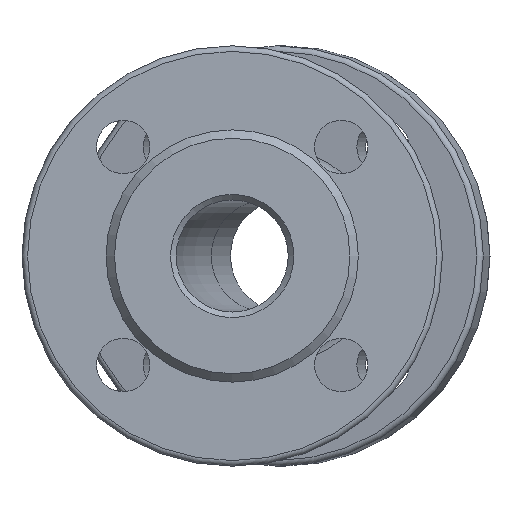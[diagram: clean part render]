
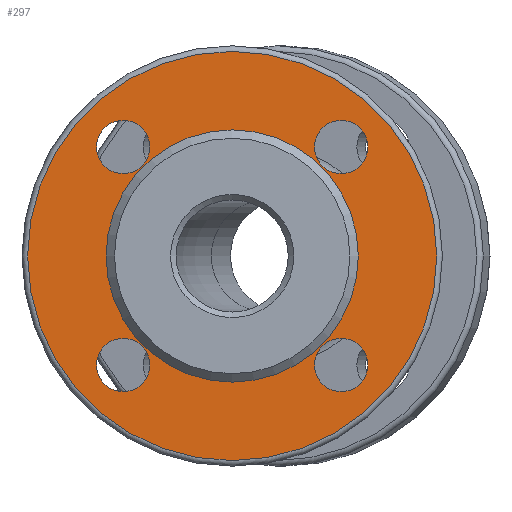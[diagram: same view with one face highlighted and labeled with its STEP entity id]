
A CAD part, left-side view. The second image highlights one B-rep face of the part: STEP entity #297.
In plain terms, the highlighted planar face has unit normal (-1, 0, 0).
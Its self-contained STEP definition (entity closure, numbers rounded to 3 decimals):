
#1 = CARTESIAN_POINT ( 'NONE',  ( 3., -38.891, 29.391 ) ) ;
#38 = ORIENTED_EDGE ( 'NONE', *, *, #1123, .T. ) ;
#60 = CARTESIAN_POINT ( 'NONE',  ( 3., 0., -73. ) ) ;
#122 = EDGE_LOOP ( 'NONE', ( #1935 ) ) ;
#223 = CIRCLE ( 'NONE', #2015, 9.5 ) ;
#279 = VERTEX_POINT ( 'NONE', #1 ) ;
#297 = ADVANCED_FACE ( 'NONE', ( #1685, #2462, #1139, #523, #3060, #2498 ), #1116, .F. ) ;
#433 = DIRECTION ( 'NONE',  ( 1., 0., 0. ) ) ;
#451 = DIRECTION ( 'NONE',  ( 0., 0., -1. ) ) ;
#523 = FACE_BOUND ( 'NONE', #976, .T. ) ;
#577 = DIRECTION ( 'NONE',  ( 1., 0., 0. ) ) ;
#585 = DIRECTION ( 'NONE',  ( 0., 0., -1. ) ) ;
#652 = DIRECTION ( 'NONE',  ( -1., 0., 0. ) ) ;
#668 = AXIS2_PLACEMENT_3D ( 'NONE', #1693, #1978, #2504 ) ;
#728 = CIRCLE ( 'NONE', #3216, 9.5 ) ;
#729 = EDGE_CURVE ( 'NONE', #2540, #2540, #2579, .T. ) ;
#763 = DIRECTION ( 'NONE',  ( 0., 0., -1. ) ) ;
#917 = CIRCLE ( 'NONE', #1665, 9.5 ) ;
#976 = EDGE_LOOP ( 'NONE', ( #2707 ) ) ;
#1116 = PLANE ( 'NONE',  #3097 ) ;
#1123 = EDGE_CURVE ( 'NONE', #3081, #3081, #728, .T. ) ;
#1139 = FACE_BOUND ( 'NONE', #2623, .T. ) ;
#1218 = EDGE_LOOP ( 'NONE', ( #3138 ) ) ;
#1339 = CARTESIAN_POINT ( 'NONE',  ( 3., -38.891, 38.891 ) ) ;
#1393 = VERTEX_POINT ( 'NONE', #2500 ) ;
#1412 = VERTEX_POINT ( 'NONE', #2520 ) ;
#1456 = EDGE_LOOP ( 'NONE', ( #3366 ) ) ;
#1579 = EDGE_CURVE ( 'NONE', #3355, #3355, #3330, .T. ) ;
#1620 = ORIENTED_EDGE ( 'NONE', *, *, #2725, .T. ) ;
#1634 = DIRECTION ( 'NONE',  ( 1., 0., 0. ) ) ;
#1650 = DIRECTION ( 'NONE',  ( 0., 0., -1. ) ) ;
#1665 = AXIS2_PLACEMENT_3D ( 'NONE', #3304, #1981, #585 ) ;
#1685 = FACE_OUTER_BOUND ( 'NONE', #122, .T. ) ;
#1693 = CARTESIAN_POINT ( 'NONE',  ( 3., 0., 0. ) ) ;
#1842 = AXIS2_PLACEMENT_3D ( 'NONE', #2350, #433, #451 ) ;
#1849 = DIRECTION ( 'NONE',  ( 0., 0., -1. ) ) ;
#1935 = ORIENTED_EDGE ( 'NONE', *, *, #1579, .T. ) ;
#1978 = DIRECTION ( 'NONE',  ( -1., 0., 0. ) ) ;
#1981 = DIRECTION ( 'NONE',  ( 1., 0., 0. ) ) ;
#2015 = AXIS2_PLACEMENT_3D ( 'NONE', #1339, #2418, #763 ) ;
#2038 = EDGE_LOOP ( 'NONE', ( #1620 ) ) ;
#2206 = CARTESIAN_POINT ( 'NONE',  ( 3., 0., 45. ) ) ;
#2350 = CARTESIAN_POINT ( 'NONE',  ( 3., 38.891, 38.891 ) ) ;
#2418 = DIRECTION ( 'NONE',  ( 1., 0., 0. ) ) ;
#2462 = FACE_BOUND ( 'NONE', #1218, .T. ) ;
#2472 = CIRCLE ( 'NONE', #1842, 9.5 ) ;
#2498 = FACE_BOUND ( 'NONE', #1456, .T. ) ;
#2500 = CARTESIAN_POINT ( 'NONE',  ( 3., 38.891, 29.391 ) ) ;
#2504 = DIRECTION ( 'NONE',  ( 0., 0., 1. ) ) ;
#2520 = CARTESIAN_POINT ( 'NONE',  ( 3., 38.891, -48.391 ) ) ;
#2540 = VERTEX_POINT ( 'NONE', #2206 ) ;
#2572 = EDGE_CURVE ( 'NONE', #279, #279, #223, .T. ) ;
#2579 = CIRCLE ( 'NONE', #668, 45. ) ;
#2623 = EDGE_LOOP ( 'NONE', ( #38 ) ) ;
#2707 = ORIENTED_EDGE ( 'NONE', *, *, #2572, .T. ) ;
#2720 = CARTESIAN_POINT ( 'NONE',  ( 3., -38.891, -38.891 ) ) ;
#2725 = EDGE_CURVE ( 'NONE', #1393, #1393, #2472, .T. ) ;
#2790 = DIRECTION ( 'NONE',  ( 0., 0., -1. ) ) ;
#2931 = AXIS2_PLACEMENT_3D ( 'NONE', #3135, #652, #1849 ) ;
#3025 = EDGE_CURVE ( 'NONE', #1412, #1412, #917, .T. ) ;
#3060 = FACE_BOUND ( 'NONE', #2038, .T. ) ;
#3062 = CARTESIAN_POINT ( 'NONE',  ( 3., -38.891, -48.391 ) ) ;
#3081 = VERTEX_POINT ( 'NONE', #3062 ) ;
#3097 = AXIS2_PLACEMENT_3D ( 'NONE', #3295, #577, #2790 ) ;
#3135 = CARTESIAN_POINT ( 'NONE',  ( 3., 0., 0. ) ) ;
#3138 = ORIENTED_EDGE ( 'NONE', *, *, #3025, .T. ) ;
#3216 = AXIS2_PLACEMENT_3D ( 'NONE', #2720, #1634, #1650 ) ;
#3295 = CARTESIAN_POINT ( 'NONE',  ( 3., 45., 0. ) ) ;
#3304 = CARTESIAN_POINT ( 'NONE',  ( 3., 38.891, -38.891 ) ) ;
#3330 = CIRCLE ( 'NONE', #2931, 73. ) ;
#3355 = VERTEX_POINT ( 'NONE', #60 ) ;
#3366 = ORIENTED_EDGE ( 'NONE', *, *, #729, .F. ) ;
